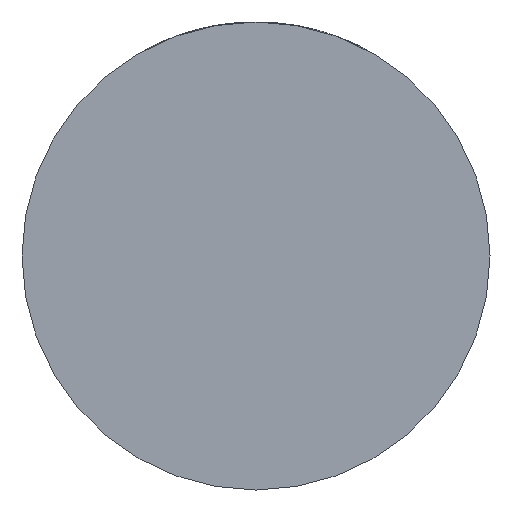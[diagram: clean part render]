
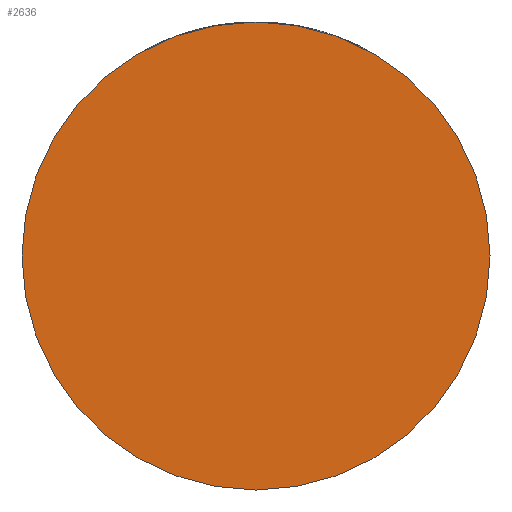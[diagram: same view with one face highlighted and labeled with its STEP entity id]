
A CAD part, front view. The second image highlights one B-rep face of the part: STEP entity #2636.
In plain terms, the highlighted planar face has unit normal (0, -1, 0).
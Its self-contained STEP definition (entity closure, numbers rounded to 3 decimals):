
#38 = DIRECTION ( 'NONE',  ( 0., -1., 0. ) ) ;
#61 = CARTESIAN_POINT ( 'NONE',  ( 0., -36., 0. ) ) ;
#106 = DIRECTION ( 'NONE',  ( 0., -1., 0. ) ) ;
#211 = EDGE_CURVE ( 'NONE', #2043, #2094, #2464, .T. ) ;
#309 = ORIENTED_EDGE ( 'NONE', *, *, #549, .T. ) ;
#549 = EDGE_CURVE ( 'NONE', #2094, #2043, #859, .T. ) ;
#793 = CARTESIAN_POINT ( 'NONE',  ( 0., -36., 0. ) ) ;
#859 = CIRCLE ( 'NONE', #3753, 39. ) ;
#1230 = AXIS2_PLACEMENT_3D ( 'NONE', #61, #38, #3507 ) ;
#1364 = AXIS2_PLACEMENT_3D ( 'NONE', #793, #106, #2873 ) ;
#1889 = PLANE ( 'NONE',  #1364 ) ;
#2043 = VERTEX_POINT ( 'NONE', #4282 ) ;
#2094 = VERTEX_POINT ( 'NONE', #3267 ) ;
#2464 = CIRCLE ( 'NONE', #1230, 39. ) ;
#2585 = ORIENTED_EDGE ( 'NONE', *, *, #211, .T. ) ;
#2636 = ADVANCED_FACE ( 'NONE', ( #3233 ), #1889, .T. ) ;
#2873 = DIRECTION ( 'NONE',  ( 1., 0., 0. ) ) ;
#3103 = CARTESIAN_POINT ( 'NONE',  ( 0., -36., 0. ) ) ;
#3233 = FACE_OUTER_BOUND ( 'NONE', #3345, .T. ) ;
#3267 = CARTESIAN_POINT ( 'NONE',  ( -39., -36., 0. ) ) ;
#3345 = EDGE_LOOP ( 'NONE', ( #309, #2585 ) ) ;
#3507 = DIRECTION ( 'NONE',  ( 1., 0., 0. ) ) ;
#3753 = AXIS2_PLACEMENT_3D ( 'NONE', #3103, #4091, #3759 ) ;
#3759 = DIRECTION ( 'NONE',  ( 1., 0., 0. ) ) ;
#4091 = DIRECTION ( 'NONE',  ( 0., -1., 0. ) ) ;
#4282 = CARTESIAN_POINT ( 'NONE',  ( 39., -36., 0. ) ) ;
